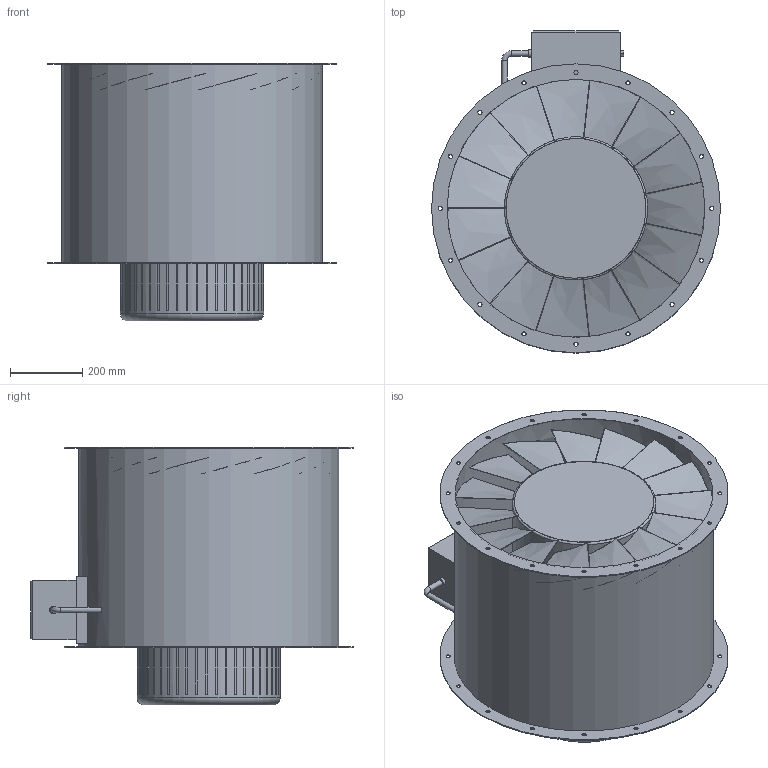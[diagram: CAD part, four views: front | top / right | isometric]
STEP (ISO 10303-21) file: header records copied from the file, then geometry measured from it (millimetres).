
FILE_DESCRIPTION(/* description */ (''),/* implementation_level */ '2;1');
FILE_NAME(/* name */ 'Z:\Output\B_AMD_710-2_15_F300-05914-030.stp',/* time_stamp */ '2021-12-10T10:08:26+01:00',/* author */ ('engineering1'),/* organization */ (''),/* preprocessor_version */ 'ST-DEVELOPER v17.2',/* originating_system */ 'Autodesk Inventor 2019',/* authorisation */ '');
FILE_SCHEMA (('AUTOMOTIVE_DESIGN { 1 0 10303 214 3 1 1 }'));
Length unit declared in the file: millimetre
Products named in the file (1): AMD W
Bounding box: 799 x 891 x 713 mm (x, y, z)
Volume: 93150406.4 mm3; surface area: 5505723.5 mm2
Topology: 1 solids, 44 shells, 451 faces, 1062 edges, 673 vertices
Faces by surface type: plane 239, cylinder 150, bspline 45, torus 17
Full cylindrical faces by diameter (mm): 11.5 x32, 15 x3, 21 x1, 396.111 x1, 713 x1, 719 x1, 799 x2
Entity records: 14244 total; most frequent: CARTESIAN_POINT 3977, ORIENTED_EDGE 2124, DIRECTION 1979, EDGE_CURVE 1062, AXIS2_PLACEMENT_3D 721, VERTEX_POINT 673, EDGE_LOOP 540, LINE 537
